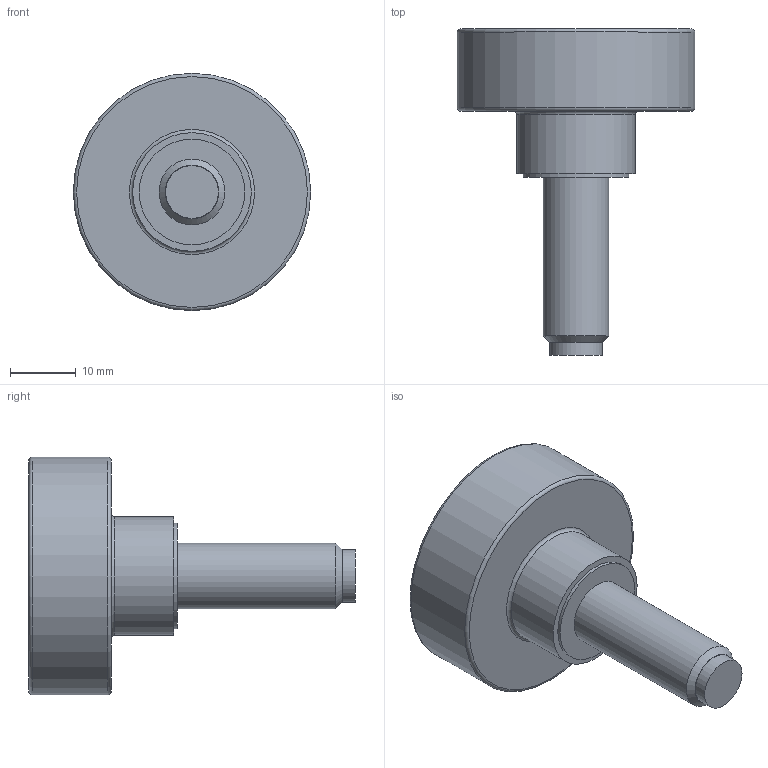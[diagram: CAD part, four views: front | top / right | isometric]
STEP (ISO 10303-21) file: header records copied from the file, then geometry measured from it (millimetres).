
FILE_DESCRIPTION( ( 'STEP AP203' ), '1' );
FILE_NAME( 'C:/Temp/Ganter_Step_05_03_2020/data/2_2/gn_421_10/Hollow knurled knob, with tip GN 421.10-M10-25-MS.stp', '2020-03-05T12:25:36', ( 'License CC BY-ND 4.0' ), ( 'CADENAS' ), ' ', 'PARTsolutions', ' ' );
FILE_SCHEMA( ( 'CONFIG_CONTROL_DESIGN' ) );
Length unit declared in the file: millimetre
Products named in the file (1): _Hollow knurled knob, with tip GN 421.10-M10-25-MS
Bounding box: 36 x 49.5 x 36 mm (x, y, z)
Volume: 11315.2 mm3; surface area: 5671.8 mm2
Topology: 1 solids, 1 shells, 19 faces, 30 edges, 19 vertices
Faces by surface type: plane 8, cylinder 7, torus 3, cone 1
Full cylindrical faces by diameter (mm): 8 x1, 10 x1, 14 x1, 16 x1, 18 x1, 31 x1, 36 x1
Entity records: 418 total; most frequent: DIRECTION 76, CARTESIAN_POINT 56, AXIS2_PLACEMENT_3D 38, EDGE_LOOP 36, ORIENTED_EDGE 36, FACE_OUTER_BOUND 29, ADVANCED_FACE 19, EDGE_CURVE 18
